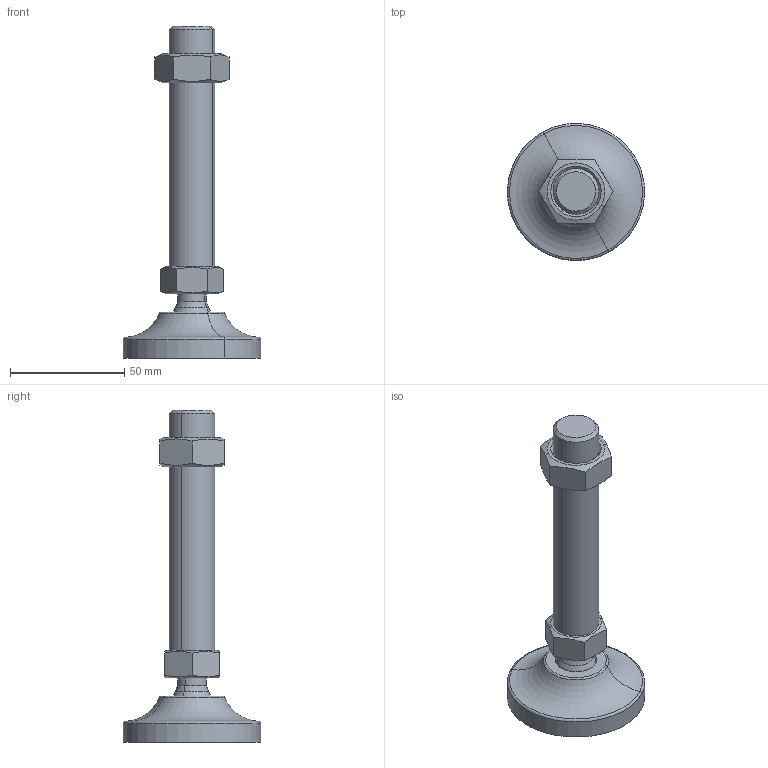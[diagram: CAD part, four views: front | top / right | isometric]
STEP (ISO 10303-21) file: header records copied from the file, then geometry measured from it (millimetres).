
FILE_DESCRIPTION(('CATIA V5 STEP Exchange'),'2;1');
FILE_NAME('C:\Users\ALI OZGUN\Desktop\alhan\saplama2\560602615.stp','2017-09-21T10:33:55+00:00',('none'),('none'),'CATIA Version 5 Release 21 GA (IN-10)','CATIA V5 STEP AP203','none');
FILE_SCHEMA(('CONFIG_CONTROL_DESIGN'));
Length unit declared in the file: millimetre
Products named in the file (1): 560602615
Bounding box: 59.98 x 59.98 x 145 mm (x, y, z)
Volume: 71566.7 mm3; surface area: 20816.7 mm2
Topology: 3 solids, 3 shells, 60 faces, 136 edges, 83 vertices
Faces by surface type: plane 20, cone 16, cylinder 14, torus 6, revolution 2, sphere 2
Entity records: 1873 total; most frequent: CARTESIAN_POINT 631, ORIENTED_EDGE 268, DIRECTION 186, EDGE_CURVE 134, AXIS2_PLACEMENT_3D 100, VERTEX_POINT 83, EDGE_LOOP 67, ADVANCED_FACE 60
